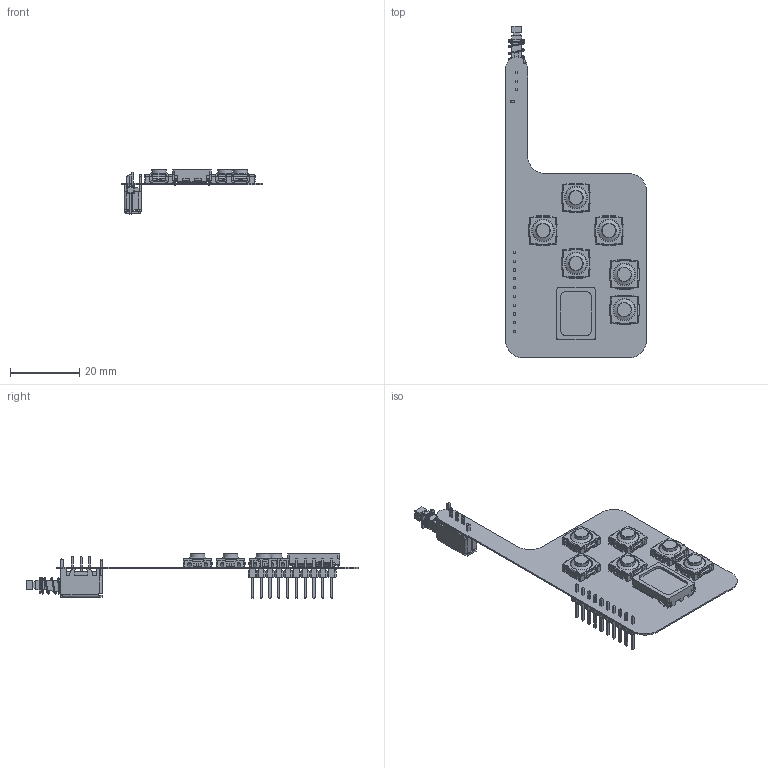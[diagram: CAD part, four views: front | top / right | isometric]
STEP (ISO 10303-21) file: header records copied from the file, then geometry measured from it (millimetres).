
FILE_DESCRIPTION(('Open CASCADE Model'),'2;1');
FILE_NAME('Open CASCADE Shape Model','2023-08-20T21:27:40',('Author'),( 'Open CASCADE'),'Open CASCADE STEP processor 6.8','Open CASCADE 6.8' ,'Unknown');
FILE_SCHEMA(('AUTOMOTIVE_DESIGN { 1 0 10303 214 1 1 1 1 }'));
Length unit declared in the file: millimetre
Products named in the file (28): PCB; Board; Open CASCADE STEP translator 6.8 35.1.1; B12; TLSA040JLFS; 1; B11; B10; B9; B8; B7; SP2; CUI_DEVICES_CMS-151135-078S; RB; LC1258xxxP; CT4; m20-9991046_asm; M20-999-MOULD; M20-999-PIN
Assembly tree (41 placements, depth 4):
  PCB
    Board
      Open CASCADE STEP translator 6.8 35.1.1
    B12
      TLSA040JLFS
        1
        1
        1
        1
        1
        1
        1
        1
        1
        1
    B11
      TLSA040JLFS
        1
        1
        1
        1
        1
        1
        1
        1
        1
        1
    B10
      TLSA040JLFS
        1
        1
        1
        1
        1
        1
        1
        1
        1
        1
    B9
      TLSA040JLFS
        1
        1
        1
        1
        1
        1
        1
        1
        1
        1
    B8
      TLSA040JLFS
        1
        1
        1
        1
        1
        1
        1
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Bounding box: 40.64 x 95.93 x 13 mm (x, y, z)
Volume: 3012 mm3; surface area: 9306.8 mm2
Topology: 68 solids, 140 shells, 2927 faces, 8215 edges, 5401 vertices
Faces by surface type: plane 2266, cylinder 425, bspline 90, cone 78, torus 68
Full cylindrical faces by diameter (mm): 0.6 x18, 2.2 x6, 4.2 x6, 6.5 x6
Entity records: 43614 total; most frequent: CARTESIAN_POINT 11211, ORIENTED_EDGE 6280, DIRECTION 5546, EDGE_CURVE 3153, LINE 2592, VECTOR 2592, VERTEX_POINT 2057, AXIS2_PLACEMENT_3D 1477
